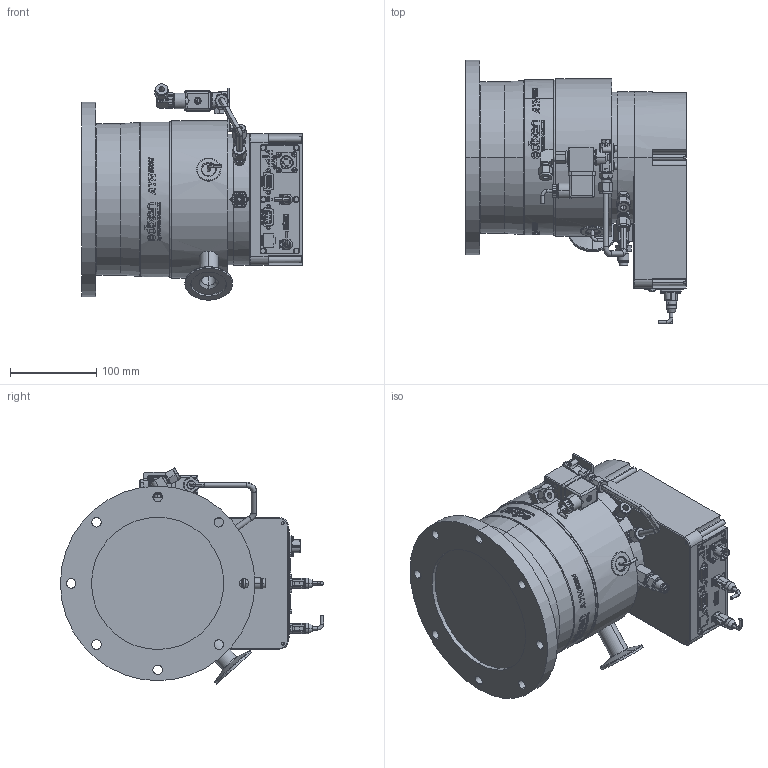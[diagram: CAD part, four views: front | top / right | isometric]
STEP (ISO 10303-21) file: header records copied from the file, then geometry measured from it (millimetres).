
FILE_DESCRIPTION((''),'2;1');
FILE_NAME('ENV-ATH500MT-VR4621B2','2015-11-24T',('RCRIADO'),(''),'PRO/ENGINEER BY PARAMETRIC TECHNOLOGY CORPORATION, 2015280','PRO/ENGINEER BY PARAMETRIC TECHNOLOGY CORPORATION, 2015280','');
FILE_SCHEMA(('CONFIG_CONTROL_DESIGN'));
Products named in the file (1): ENV-ATH500MT-VR4621B2
Bounding box: 255.12 x 304.45 x 250.1 mm (x, y, z)
Volume: 6959168.5 mm3; surface area: 397262.8 mm2
Topology: 13 solids, 32 shells, 5803 faces, 15521 edges, 10156 vertices
Faces by surface type: plane 3216, bspline 1268, cylinder 746, cone 287, extrusion 205, torus 61, sphere 20
Entity records: 212285 total; most frequent: CARTESIAN_POINT 75022, ORIENTED_EDGE 31002, DIRECTION 23724, EDGE_CURVE 15501, VERTEX_POINT 10156, VECTOR 10096, LINE 9891, AXIS2_PLACEMENT_3D 6814
